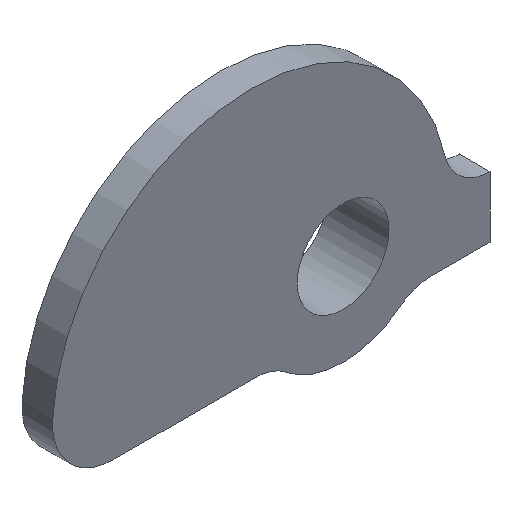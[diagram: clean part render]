
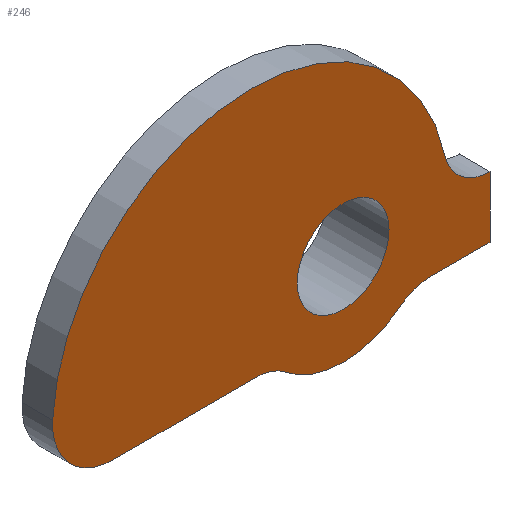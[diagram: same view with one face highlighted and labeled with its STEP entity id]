
A CAD part, isometric view. The second image highlights one B-rep face of the part: STEP entity #246.
In plain terms, the highlighted planar face has unit normal (0, -1, 0).
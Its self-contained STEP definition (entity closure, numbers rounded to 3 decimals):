
#28=LINE('',#417,#45);
#33=LINE('',#433,#50);
#35=LINE('',#437,#52);
#45=VECTOR('',#339,10.);
#50=VECTOR('',#358,10.);
#52=VECTOR('',#362,10.);
#57=FACE_BOUND('',#85,.T.);
#70=FACE_OUTER_BOUND('',#84,.T.);
#84=EDGE_LOOP('',(#218,#219,#220,#221,#222,#223,#224,#225,#226));
#85=EDGE_LOOP('',(#227));
#96=CIRCLE('',#280,15.);
#97=CIRCLE('',#282,15.);
#98=CIRCLE('',#285,20.);
#99=CIRCLE('',#287,65.);
#100=CIRCLE('',#289,15.);
#101=CIRCLE('',#293,15.);
#102=CIRCLE('',#295,30.);
#116=VERTEX_POINT('',#406);
#117=VERTEX_POINT('',#410);
#118=VERTEX_POINT('',#412);
#119=VERTEX_POINT('',#416);
#120=VERTEX_POINT('',#420);
#121=VERTEX_POINT('',#424);
#122=VERTEX_POINT('',#428);
#123=VERTEX_POINT('',#432);
#124=VERTEX_POINT('',#436);
#125=VERTEX_POINT('',#440);
#139=EDGE_CURVE('',#116,#116,#96,.T.);
#142=EDGE_CURVE('',#118,#117,#97,.T.);
#144=EDGE_CURVE('',#119,#118,#28,.T.);
#146=EDGE_CURVE('',#120,#119,#98,.T.);
#148=EDGE_CURVE('',#121,#120,#99,.T.);
#150=EDGE_CURVE('',#122,#121,#100,.T.);
#152=EDGE_CURVE('',#123,#122,#33,.T.);
#154=EDGE_CURVE('',#124,#123,#35,.T.);
#156=EDGE_CURVE('',#125,#124,#101,.T.);
#158=EDGE_CURVE('',#117,#125,#102,.T.);
#218=ORIENTED_EDGE('',*,*,#158,.T.);
#219=ORIENTED_EDGE('',*,*,#156,.T.);
#220=ORIENTED_EDGE('',*,*,#154,.T.);
#221=ORIENTED_EDGE('',*,*,#152,.T.);
#222=ORIENTED_EDGE('',*,*,#150,.T.);
#223=ORIENTED_EDGE('',*,*,#148,.T.);
#224=ORIENTED_EDGE('',*,*,#146,.T.);
#225=ORIENTED_EDGE('',*,*,#144,.T.);
#226=ORIENTED_EDGE('',*,*,#142,.T.);
#227=ORIENTED_EDGE('',*,*,#139,.T.);
#233=PLANE('',#296);
#246=ADVANCED_FACE('',(#70,#57),#233,.F.);
#280=AXIS2_PLACEMENT_3D('',#407,#328,#329);
#282=AXIS2_PLACEMENT_3D('',#413,#334,#335);
#285=AXIS2_PLACEMENT_3D('',#421,#343,#344);
#287=AXIS2_PLACEMENT_3D('',#425,#348,#349);
#289=AXIS2_PLACEMENT_3D('',#429,#353,#354);
#293=AXIS2_PLACEMENT_3D('',#441,#366,#367);
#295=AXIS2_PLACEMENT_3D('',#444,#371,#372);
#296=AXIS2_PLACEMENT_3D('',#446,#374,#375);
#328=DIRECTION('center_axis',(0.,1.,0.));
#329=DIRECTION('ref_axis',(1.,0.,0.));
#334=DIRECTION('center_axis',(0.,1.,0.));
#335=DIRECTION('ref_axis',(0.,0.,-1.));
#339=DIRECTION('',(1.,0.,0.));
#343=DIRECTION('center_axis',(0.,-1.,0.));
#344=DIRECTION('ref_axis',(0.,0.,-1.));
#348=DIRECTION('center_axis',(0.,-1.,0.));
#349=DIRECTION('ref_axis',(-0.998,0.,0.055));
#353=DIRECTION('center_axis',(0.,1.,0.));
#354=DIRECTION('ref_axis',(0.,0.,1.));
#358=DIRECTION('',(0.,0.,1.));
#362=DIRECTION('',(1.,0.,0.));
#366=DIRECTION('center_axis',(0.,1.,0.));
#367=DIRECTION('ref_axis',(0.629,0.,-0.778));
#371=DIRECTION('center_axis',(0.,-1.,0.));
#372=DIRECTION('ref_axis',(0.629,0.,-0.778));
#374=DIRECTION('center_axis',(0.,1.,0.));
#375=DIRECTION('ref_axis',(0.,0.,1.));
#406=CARTESIAN_POINT('',(-15.,-10.,0.));
#407=CARTESIAN_POINT('Origin',(0.,-10.,0.));
#410=CARTESIAN_POINT('',(-18.856,-10.,-23.333));
#412=CARTESIAN_POINT('',(-28.284,-10.,-20.));
#413=CARTESIAN_POINT('Origin',(-28.284,-10.,-35.));
#416=CARTESIAN_POINT('',(-75.,-10.,-20.));
#417=CARTESIAN_POINT('',(-28.284,-10.,-20.));
#420=CARTESIAN_POINT('',(-94.97,-10.,1.1));
#421=CARTESIAN_POINT('Origin',(-75.,-10.,0.));
#424=CARTESIAN_POINT('',(33.362,-10.,11.723));
#425=CARTESIAN_POINT('Origin',(-30.068,-10.,-2.475));
#428=CARTESIAN_POINT('',(48.,-10.,0.));
#429=CARTESIAN_POINT('Origin',(48.,-10.,15.));
#432=CARTESIAN_POINT('',(48.,-10.,-20.));
#433=CARTESIAN_POINT('',(48.,-10.,0.));
#436=CARTESIAN_POINT('',(28.284,-10.,-20.));
#437=CARTESIAN_POINT('',(48.,-10.,-20.));
#440=CARTESIAN_POINT('',(18.856,-10.,-23.333));
#441=CARTESIAN_POINT('Origin',(28.284,-10.,-35.));
#444=CARTESIAN_POINT('Origin',(0.,-10.,0.));
#446=CARTESIAN_POINT('Origin',(-23.5,-10.,16.263));
